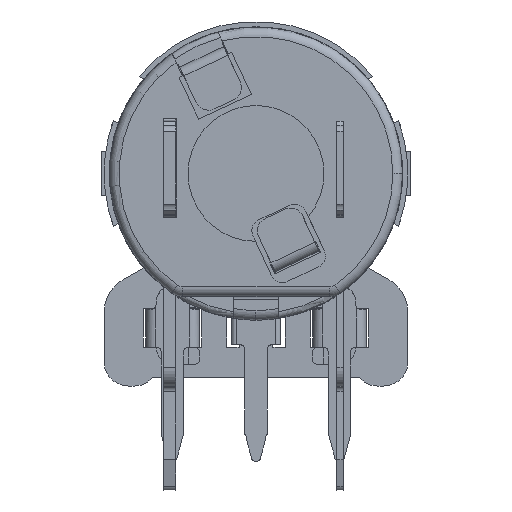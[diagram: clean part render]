
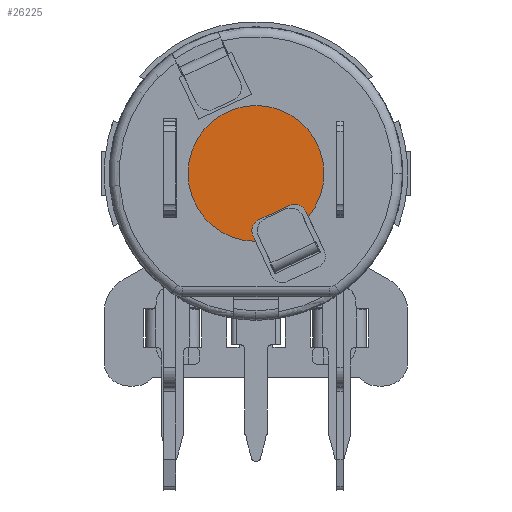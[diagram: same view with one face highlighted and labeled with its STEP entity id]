
A CAD part, front view. The second image highlights one B-rep face of the part: STEP entity #26225.
In plain terms, the highlighted planar face has unit normal (0, -1, 0) as drawn and (0, 0, 1) by its records, which use the part's own axes.
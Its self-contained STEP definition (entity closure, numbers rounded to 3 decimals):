
#59 = CIRCLE ( 'NONE', #19186, 3.556 ) ;
#109 = ORIENTED_EDGE ( 'NONE', *, *, #13856, .T. ) ;
#569 = VERTEX_POINT ( 'NONE', #5996 ) ;
#1407 = VERTEX_POINT ( 'NONE', #11524 ) ;
#1957 = AXIS2_PLACEMENT_3D ( 'NONE', #3830, #20728, #16500 ) ;
#2144 = DIRECTION ( 'NONE',  ( 0., 0., 1. ) ) ;
#2712 = AXIS2_PLACEMENT_3D ( 'NONE', #5794, #18214, #5533 ) ;
#3313 = CARTESIAN_POINT ( 'NONE',  ( 0., 0., -0.01 ) ) ;
#3830 = CARTESIAN_POINT ( 'NONE',  ( 0.418, -3., -0.01 ) ) ;
#4553 = ORIENTED_EDGE ( 'NONE', *, *, #19688, .T. ) ;
#5219 = ORIENTED_EDGE ( 'NONE', *, *, #25344, .T. ) ;
#5533 = DIRECTION ( 'NONE',  ( 1., 0., 0. ) ) ;
#5794 = CARTESIAN_POINT ( 'NONE',  ( 2.029, -2.249, -0.01 ) ) ;
#5996 = CARTESIAN_POINT ( 'NONE',  ( 2.739, -2.268, -0.01 ) ) ;
#6024 = EDGE_CURVE ( 'NONE', #12192, #13338, #14893, .T. ) ;
#6155 = DIRECTION ( 'NONE',  ( 0., 0., 1. ) ) ;
#6329 = VECTOR ( 'NONE', #25722, 1000. ) ;
#7567 = DIRECTION ( 'NONE',  ( 0.906, 0.423, 0. ) ) ;
#7654 = EDGE_CURVE ( 'NONE', #569, #1407, #12211, .T. ) ;
#7826 = VECTOR ( 'NONE', #7567, 1000. ) ;
#8309 = AXIS2_PLACEMENT_3D ( 'NONE', #3313, #11898, #18180 ) ;
#8778 = LINE ( 'NONE', #17380, #6329 ) ;
#8892 = FACE_OUTER_BOUND ( 'NONE', #24066, .T. ) ;
#9790 = LINE ( 'NONE', #19776, #10810 ) ;
#10435 = DIRECTION ( 'NONE',  ( 1., 0., 0. ) ) ;
#10716 = ORIENTED_EDGE ( 'NONE', *, *, #6024, .T. ) ;
#10810 = VECTOR ( 'NONE', #26208, 1000. ) ;
#11049 = ORIENTED_EDGE ( 'NONE', *, *, #11687, .T. ) ;
#11334 = AXIS2_PLACEMENT_3D ( 'NONE', #16929, #6155, #14345 ) ;
#11399 = VERTEX_POINT ( 'NONE', #26003 ) ;
#11524 = CARTESIAN_POINT ( 'NONE',  ( 3.556, 0., -0.01 ) ) ;
#11687 = EDGE_CURVE ( 'NONE', #16462, #12776, #21104, .T. ) ;
#11898 = DIRECTION ( 'NONE',  ( 0., 0., 1. ) ) ;
#12192 = VERTEX_POINT ( 'NONE', #16753 ) ;
#12211 = CIRCLE ( 'NONE', #11334, 3.556 ) ;
#12776 = VERTEX_POINT ( 'NONE', #21605 ) ;
#12985 = VERTEX_POINT ( 'NONE', #24316 ) ;
#13338 = VERTEX_POINT ( 'NONE', #18393 ) ;
#13856 = EDGE_CURVE ( 'NONE', #13338, #569, #8778, .T. ) ;
#14345 = DIRECTION ( 'NONE',  ( 1., 0., 0. ) ) ;
#14812 = AXIS2_PLACEMENT_3D ( 'NONE', #20810, #2144, #10435 ) ;
#14893 = CIRCLE ( 'NONE', #2712, 0.635 ) ;
#15778 = LINE ( 'NONE', #19986, #7826 ) ;
#15931 = ORIENTED_EDGE ( 'NONE', *, *, #26643, .T. ) ;
#16013 = CARTESIAN_POINT ( 'NONE',  ( -0.157, -3.268, -0.01 ) ) ;
#16462 = VERTEX_POINT ( 'NONE', #16013 ) ;
#16500 = DIRECTION ( 'NONE',  ( 1., 0., 0. ) ) ;
#16753 = CARTESIAN_POINT ( 'NONE',  ( 1.761, -1.673, -0.01 ) ) ;
#16929 = CARTESIAN_POINT ( 'NONE',  ( 0., 0., -0.01 ) ) ;
#17380 = CARTESIAN_POINT ( 'NONE',  ( 2.605, -1.98, -0.01 ) ) ;
#18180 = DIRECTION ( 'NONE',  ( 1., 0., 0. ) ) ;
#18214 = DIRECTION ( 'NONE',  ( 0., 0., -1. ) ) ;
#18393 = CARTESIAN_POINT ( 'NONE',  ( 2.605, -1.98, -0.01 ) ) ;
#19080 = ORIENTED_EDGE ( 'NONE', *, *, #21523, .T. ) ;
#19186 = AXIS2_PLACEMENT_3D ( 'NONE', #25343, #20827, #25614 ) ;
#19688 = EDGE_CURVE ( 'NONE', #1407, #11399, #59, .T. ) ;
#19776 = CARTESIAN_POINT ( 'NONE',  ( -0.157, -3.268, -0.01 ) ) ;
#19795 = ORIENTED_EDGE ( 'NONE', *, *, #7654, .T. ) ;
#19986 = CARTESIAN_POINT ( 'NONE',  ( 1.761, -1.673, -0.01 ) ) ;
#20728 = DIRECTION ( 'NONE',  ( 0., 0., -1. ) ) ;
#20810 = CARTESIAN_POINT ( 'NONE',  ( 0., 0., -0.01 ) ) ;
#20827 = DIRECTION ( 'NONE',  ( 0., 0., 1. ) ) ;
#21104 = CIRCLE ( 'NONE', #1957, 0.635 ) ;
#21523 = EDGE_CURVE ( 'NONE', #11399, #12985, #26580, .T. ) ;
#21605 = CARTESIAN_POINT ( 'NONE',  ( 0.15, -2.425, -0.01 ) ) ;
#24066 = EDGE_LOOP ( 'NONE', ( #109, #19795, #4553, #19080, #15931, #11049, #5219, #10716 ) ) ;
#24171 = PLANE ( 'NONE',  #8309 ) ;
#24316 = CARTESIAN_POINT ( 'NONE',  ( -0.023, -3.556, -0.01 ) ) ;
#25343 = CARTESIAN_POINT ( 'NONE',  ( 0., 0., -0.01 ) ) ;
#25344 = EDGE_CURVE ( 'NONE', #12776, #12192, #15778, .T. ) ;
#25614 = DIRECTION ( 'NONE',  ( 1., 0., 0. ) ) ;
#25722 = DIRECTION ( 'NONE',  ( 0.423, -0.906, 0. ) ) ;
#26003 = CARTESIAN_POINT ( 'NONE',  ( -3.556, 0., -0.01 ) ) ;
#26208 = DIRECTION ( 'NONE',  ( -0.423, 0.906, 0. ) ) ;
#26225 = ADVANCED_FACE ( 'NONE', ( #8892 ), #24171, .T. ) ;
#26580 = CIRCLE ( 'NONE', #14812, 3.556 ) ;
#26643 = EDGE_CURVE ( 'NONE', #12985, #16462, #9790, .T. ) ;
